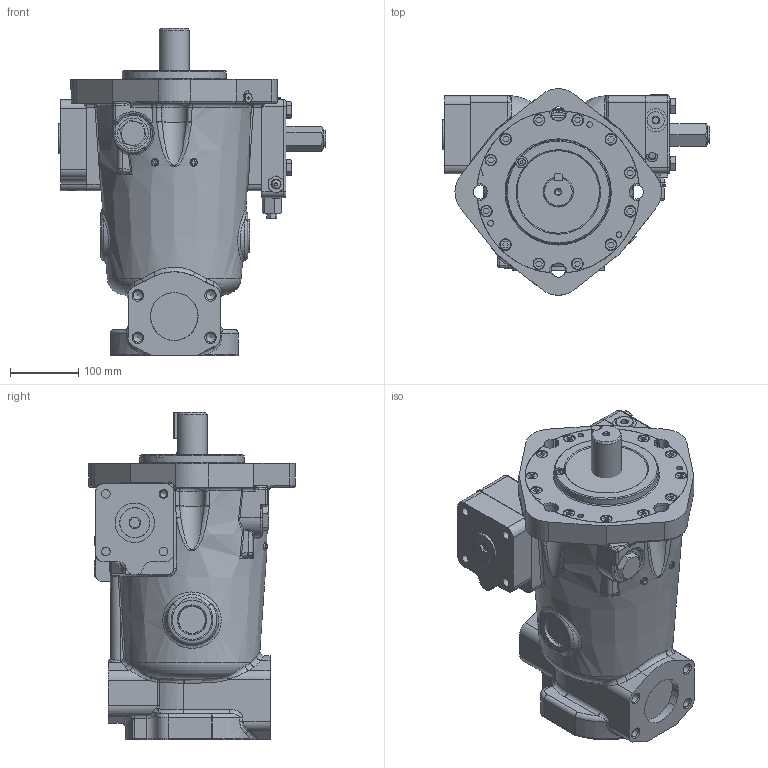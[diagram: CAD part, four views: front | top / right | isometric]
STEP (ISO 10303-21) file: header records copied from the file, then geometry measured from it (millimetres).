
FILE_DESCRIPTION(/* description */ (''),/* implementation_level */ '2;1');
FILE_NAME(/* name */ 'G:\Cadusers\Miller\3D\P09Q2R1DC10 solid.stp',/* time_stamp */ '2016-01-21T11:48:09-05:00',/* author */ ('cma4859'),/* organization */ (''),/* preprocessor_version */ 'ST-DEVELOPER v15.2',/* originating_system */ 'Autodesk Inventor 2014',/* authorisation */ '');
FILE_SCHEMA (('AUTOMOTIVE_DESIGN { 1 0 10303 214 3 1 1 }'));
Products named in the file (1): P09Q2R1DC10 solid
Bounding box: 391 x 302.23 x 478.79 mm (x, y, z)
Volume: 17931708.4 mm3; surface area: 882985.9 mm2
Topology: 49 solids, 49 shells, 1622 faces, 3718 edges, 2260 vertices
Faces by surface type: plane 613, cylinder 375, bspline 274, cone 247, torus 94, sphere 19
Full cylindrical faces by diameter (mm): 1.5 x2, 2.184 x8, 2.507 x1, 3.962 x2, 4.78 x1, 5.563 x2, 6 x5, 6.35 x5, 6.782 x1, 6.985 x1, 7.112 x1, 7.295 x1, 7.31 x1, 7.938 x4, 8.382 x15, 8.611 x1, 9.246 x4, 9.25 x1, 9.52 x2, 9.6 x4, 10.109 x1, 10.16 x12, 10.319 x12, 11.1 x4, 11.112 x7, 11.852 x4, 11.887 x1, 12 x4, 12.217 x2, 12.5 x5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
Entity records: 53624 total; most frequent: CARTESIAN_POINT 20616, DIRECTION 6585, ORIENTED_EDGE 6406, EDGE_CURVE 3203, AXIS2_PLACEMENT_3D 2737, EDGE_LOOP 2191, VERTEX_POINT 2170, FACE_OUTER_BOUND 1622
